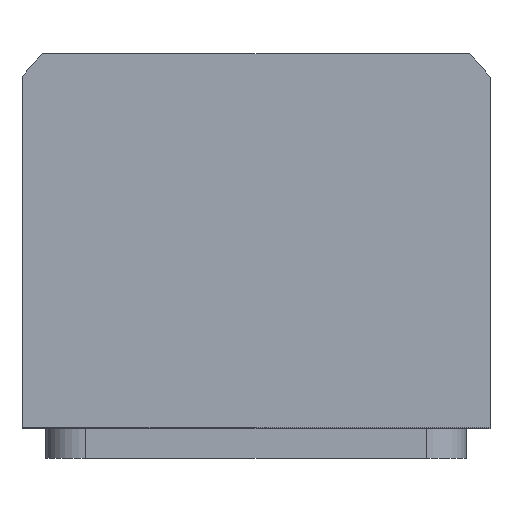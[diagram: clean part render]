
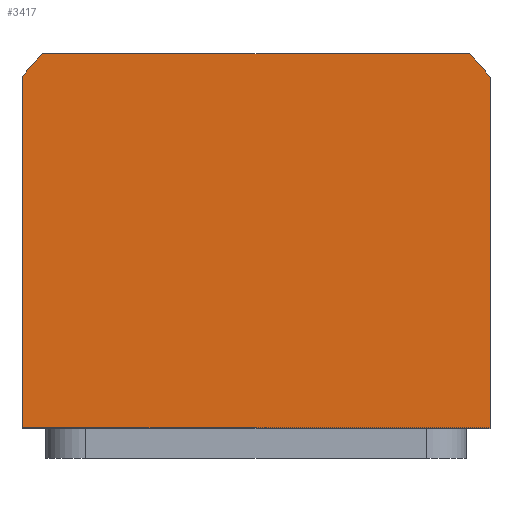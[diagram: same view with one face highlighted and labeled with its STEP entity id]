
A CAD part, top view. The second image highlights one B-rep face of the part: STEP entity #3417.
In plain terms, the highlighted planar face has unit normal (0, 0, 1).
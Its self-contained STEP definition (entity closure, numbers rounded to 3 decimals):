
#2667=FACE_OUTER_BOUND('',#4352,.T.);
#3417=ADVANCED_FACE('',(#2667),#3858,.T.);
#3858=PLANE('',#11459);
#4352=EDGE_LOOP('',(#6896,#6897,#6898,#6899,#6900,#6901));
#4857=LINE('',#13747,#5743);
#4887=LINE('',#14388,#5773);
#4907=LINE('',#14443,#5793);
#4910=LINE('',#14455,#5796);
#5743=VECTOR('',#11858,1.);
#5773=VECTOR('',#11972,1.);
#5793=VECTOR('',#12020,1.);
#5796=VECTOR('',#12033,1.);
#6896=ORIENTED_EDGE('',*,*,#10158,.T.);
#6897=ORIENTED_EDGE('',*,*,#10186,.T.);
#6898=ORIENTED_EDGE('',*,*,#10165,.T.);
#6899=ORIENTED_EDGE('',*,*,#10192,.T.);
#6900=ORIENTED_EDGE('',*,*,#10161,.T.);
#6901=ORIENTED_EDGE('',*,*,#10065,.T.);
#9203=VERTEX_POINT('',#13746);
#9204=VERTEX_POINT('',#13748);
#9287=VERTEX_POINT('',#14387);
#9288=VERTEX_POINT('',#14391);
#9290=VERTEX_POINT('',#14397);
#9293=VERTEX_POINT('',#14402);
#10065=EDGE_CURVE('',#9204,#9203,#4857,.T.);
#10158=EDGE_CURVE('',#9203,#9287,#4887,.T.);
#10161=EDGE_CURVE('',#9288,#9204,#11325,.T.);
#10165=EDGE_CURVE('',#9290,#9293,#11327,.T.);
#10186=EDGE_CURVE('',#9287,#9290,#4907,.T.);
#10192=EDGE_CURVE('',#9293,#9288,#4910,.T.);
#11325=CIRCLE('',#11435,44.5);
#11327=CIRCLE('',#11438,44.5);
#11435=AXIS2_PLACEMENT_3D('',#14394,#11978,#11979);
#11438=AXIS2_PLACEMENT_3D('',#14403,#11986,#11987);
#11459=AXIS2_PLACEMENT_3D('',#14480,#12057,#12058);
#11858=DIRECTION('',(0.,-1.,0.));
#11972=DIRECTION('',(1.,0.,0.));
#11978=DIRECTION('',(0.,0.,1.));
#11979=DIRECTION('',(1.,0.,0.));
#11986=DIRECTION('',(0.,0.,1.));
#11987=DIRECTION('',(1.,0.,0.));
#12020=DIRECTION('',(0.,1.,0.));
#12033=DIRECTION('',(-1.,0.,0.));
#12057=DIRECTION('',(0.,0.,1.));
#12058=DIRECTION('',(-1.,0.,0.));
#13746=CARTESIAN_POINT('',(-35.,-25.,39.5));
#13747=CARTESIAN_POINT('',(-35.,-25.,39.5));
#13748=CARTESIAN_POINT('',(-35.,27.482,39.5));
#14387=CARTESIAN_POINT('',(35.,-25.,39.5));
#14388=CARTESIAN_POINT('',(35.,-25.,39.5));
#14391=CARTESIAN_POINT('',(-31.926,31.,39.5));
#14394=CARTESIAN_POINT('',(0.,0.,39.5));
#14397=CARTESIAN_POINT('',(35.,27.482,39.5));
#14402=CARTESIAN_POINT('',(31.926,31.,39.5));
#14403=CARTESIAN_POINT('',(0.,0.,39.5));
#14443=CARTESIAN_POINT('',(35.,27.482,39.5));
#14455=CARTESIAN_POINT('',(-31.926,31.,39.5));
#14480=CARTESIAN_POINT('',(0.,0.,39.5));
